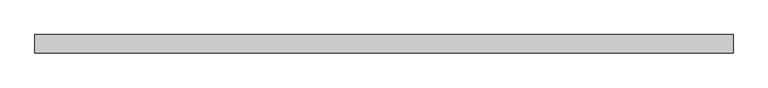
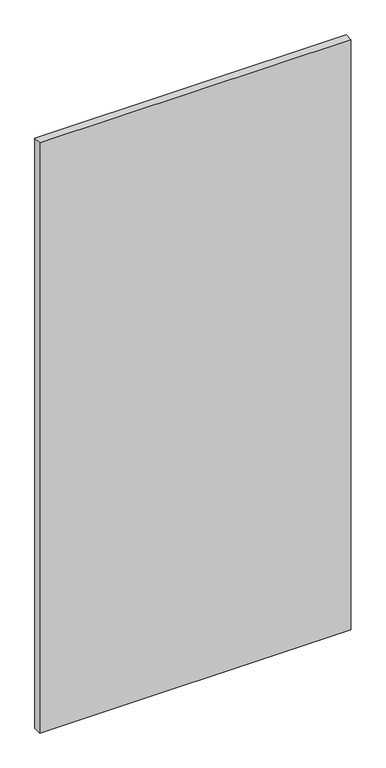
"""IFC4 building model written with IfcOpenShell, lengths in millimetres: plate geometry, Vitré."""

import ifcopenshell
import ifcopenshell.guid

model = None  # the IFC model being written
_history = None  # IfcOwnerHistory: only IFC2X3 demands one
_inside = {}  # id of a spatial element -> (the spatial element, [elements in it])
_under = {}  # id of a project, library or spatial element -> (it, [spatial elements below it])
_declared = {}  # id of a project -> (the project, [libraries it declares])
_typed = {}  # id of a type object -> (the type object, [elements of that type])
_made_of = {}  # id of a material, layer set ... -> (it, [elements and type objects made of it])


def new_model(schema):
    """Start an empty IFC model of exactly this schema.

    Asked for "IFC4X3", IfcOpenShell would pick the latest addendum, in which some entities
    have other attributes; the version numbers below select the first issue.
    IFC2X3 requires an IfcOwnerHistory on every rooted entity: one is made here for all.
    """
    global model, _history
    if schema == "IFC4X3":
        model = ifcopenshell.file(schema_version=(4, 3, 0, 0))
    else:
        model = ifcopenshell.file(schema=schema)
    _inside.clear()
    _under.clear()
    _declared.clear()
    _typed.clear()
    _made_of.clear()
    _history = None
    if model.schema == "IFC2X3":
        org = make("IfcOrganization", Name="unknown")
        user = make(
            "IfcPersonAndOrganization",
            ThePerson=make("IfcPerson", FamilyName="unknown"),
            TheOrganization=org,
        )
        app = make(
            "IfcApplication",
            ApplicationDeveloper=org,
            Version="unknown",
            ApplicationFullName="unknown",
            ApplicationIdentifier="unknown",
        )
        _history = make(
            "IfcOwnerHistory",
            OwningUser=user,
            OwningApplication=app,
            ChangeAction="ADDED",
            CreationDate=0,
        )
    return model


def make(cls, **values):
    """One entity of the class cls with the attributes given. An attribute that is None is left unset."""
    return model.create_entity(
        cls, **{name: value for name, value in values.items() if value is not None}
    )


def rooted(cls, **values):
    """An entity with a GlobalId (a new one), such as an element, a storey or a relation."""
    return make(cls, GlobalId=ifcopenshell.guid.new(), OwnerHistory=_history, **values)


def si_unit(unit_type, name, prefix=None):
    """IfcSIUnit, for example si_unit("LENGTHUNIT", "METRE", prefix="MILLI")."""
    return make("IfcSIUnit", UnitType=unit_type, Prefix=prefix, Name=name)


def assignment(units):
    """IfcUnitAssignment: the units of a project."""
    return None if units is None else make("IfcUnitAssignment", Units=units)


def point(xyz):
    """IfcCartesianPoint."""
    return None if xyz is None else make("IfcCartesianPoint", Coordinates=xyz)


def direction(xyz):
    """IfcDirection."""
    return None if xyz is None else make("IfcDirection", DirectionRatios=xyz)


def frame(location, z_axis=None, x_axis=None):
    """IfcAxis2Placement3D, a coordinate frame: its origin and axes. An axis left out is left unset."""
    return make(
        "IfcAxis2Placement3D",
        Location=point(location),
        Axis=direction(z_axis),
        RefDirection=direction(x_axis),
    )


def origin():
    """The frame at (0, 0, 0) with its axes left unset."""
    return frame((0.0, 0.0, 0.0))


def origin_with_axes():
    """The frame at (0, 0, 0) with the z axis (0, 0, 1) and the x axis (1, 0, 0) written out."""
    return frame((0.0, 0.0, 0.0), z_axis=(0.0, 0.0, 1.0), x_axis=(1.0, 0.0, 0.0))


def place(relative_to, where):
    """IfcLocalPlacement: puts the frame where relative to a parent placement (None: the world)."""
    return make(
        "IfcLocalPlacement", PlacementRelTo=relative_to, RelativePlacement=where
    )


def context(
    kind, dimensions, precision=None, world=None, true_north=None, identifier=None
):
    """IfcGeometricRepresentationContext, for example the 3D "Model" context."""
    return make(
        "IfcGeometricRepresentationContext",
        ContextIdentifier=identifier,
        ContextType=kind,
        CoordinateSpaceDimension=dimensions,
        Precision=precision,
        WorldCoordinateSystem=world,
        TrueNorth=true_north,
    )


def project(units=None, contexts=None):
    """IfcProject with its units and contexts."""
    return rooted(
        "IfcProject",
        Name="project",
        RepresentationContexts=contexts,
        UnitsInContext=assignment(units),
    )


def spatial(cls, under=None, at=None, **own):
    """A site, building, storey or space (cls), placed at a placement, below another one or the project."""
    s = rooted(cls, ObjectPlacement=at, **own)
    if under is not None:
        _under.setdefault(under.id(), (under, []))[1].append(s)
    return s


def polyline(points):
    """IfcPolyline through the points."""
    return make("IfcPolyline", Points=[point(p) for p in points])


def outline(outer, holes=None, kind="AREA"):
    """IfcArbitraryClosedProfileDef: a profile drawn as a closed curve; with holes, ...WithVoids."""
    if holes is None:
        return make("IfcArbitraryClosedProfileDef", ProfileType=kind, OuterCurve=outer)
    return make(
        "IfcArbitraryProfileDefWithVoids",
        ProfileType=kind,
        OuterCurve=outer,
        InnerCurves=holes,
    )


def extrude(swept, where, along, depth):
    """IfcExtrudedAreaSolid: the profile swept, set in the frame where, extruded along a direction by depth."""
    return make(
        "IfcExtrudedAreaSolid",
        SweptArea=swept,
        Position=where,
        ExtrudedDirection=direction(along),
        Depth=depth,
    )


def shape(context_of_items, identifier, shape_type, items):
    """IfcShapeRepresentation: the items that make up one representation, for example the "Body"."""
    return make(
        "IfcShapeRepresentation",
        ContextOfItems=context_of_items,
        RepresentationIdentifier=identifier,
        RepresentationType=shape_type,
        Items=items,
    )


def source(mapping_origin, context_of_items, identifier, shape_type, items):
    """IfcRepresentationMap: a shape defined once, which mapped items show again and again."""
    return make(
        "IfcRepresentationMap",
        MappingOrigin=mapping_origin,
        MappedRepresentation=shape(context_of_items, identifier, shape_type, items),
    )


def transform(
    local_origin,
    x_axis=None,
    y_axis=None,
    z_axis=None,
    scale=None,
    scale2=None,
    scale3=None,
    uniform=True,
):
    """IfcCartesianTransformationOperator3D, or its non-uniform kind. x_axis, y_axis, z_axis: its Axis1, 2, 3."""
    if uniform:
        return make(
            "IfcCartesianTransformationOperator3D",
            Axis1=direction(x_axis),
            Axis2=direction(y_axis),
            LocalOrigin=point(local_origin),
            Scale=scale,
            Axis3=direction(z_axis),
        )
    return make(
        "IfcCartesianTransformationOperator3DnonUniform",
        Axis1=direction(x_axis),
        Axis2=direction(y_axis),
        LocalOrigin=point(local_origin),
        Scale=scale,
        Axis3=direction(z_axis),
        Scale2=scale2,
        Scale3=scale3,
    )


def mapped(mapping_source, mapping_target):
    """IfcMappedItem: shows the shape of a source again, moved by a transform."""
    return make(
        "IfcMappedItem", MappingSource=mapping_source, MappingTarget=mapping_target
    )


def made_of(thing, what):
    """Note that an element or type object is made of a material, layer set ...; save() writes the relation."""
    if what is not None:
        _made_of.setdefault(what.id(), (what, []))[1].append(thing)
    return thing


def element(
    cls,
    number,
    at=None,
    inside=None,
    cuts=None,
    type_object=None,
    material=None,
    context=None,
    identifier="Body",
    shape_type=None,
    held_by="IfcProductDefinitionShape",
    body=None,
    shapes=None,
    **own,
):
    """One element of the class cls, such as IfcWall. Its Tag is "e" and its number.

    at: its placement. inside: the storey or other place that contains it. cuts: it is an
    opening in that element (IfcRelVoidsElement). A single representation is given by context,
    identifier, shape_type and body (its items); several are given by shapes. held_by: the class
    of the entity that holds the representations. save() writes the other relations.
    """
    e = rooted(cls, Tag="e%d" % number, ObjectPlacement=at, **own)
    if body is not None:
        shapes = [shape(context, identifier, shape_type, body)]
    if shapes is not None:
        e.Representation = make(held_by, Representations=shapes)
    if inside is not None:
        _inside.setdefault(inside.id(), (inside, []))[1].append(e)
    if cuts is not None:
        rooted(
            "IfcRelVoidsElement", RelatingBuildingElement=cuts, RelatedOpeningElement=e
        )
    if type_object is not None:
        _typed.setdefault(type_object.id(), (type_object, []))[1].append(e)
    return made_of(e, material)


def aggregate(whole, parts):
    """IfcRelAggregates: a whole, such as a stair, and the parts it consists of."""
    return rooted("IfcRelAggregates", RelatingObject=whole, RelatedObjects=parts)


def save(model, path):
    """Write the relations noted so far, then the file.

    IfcRelAggregates (storeys below a building ...), IfcRelContainedInSpatialStructure (elements
    in a storey), IfcRelDefinesByType, IfcRelAssociatesMaterial and IfcRelDeclares: one each for
    every whole, place, type object, material and project.
    """
    for whole, parts in _under.values():
        aggregate(whole, parts)
    for where, things in _inside.values():
        rooted(
            "IfcRelContainedInSpatialStructure",
            RelatedElements=things,
            RelatingStructure=where,
        )
    for kind, things in _typed.values():
        rooted("IfcRelDefinesByType", RelatedObjects=things, RelatingType=kind)
    for what, things in _made_of.values():
        rooted("IfcRelAssociatesMaterial", RelatedObjects=things, RelatingMaterial=what)
    for by, libraries in _declared.values():
        rooted("IfcRelDeclares", RelatingContext=by, RelatedDefinitions=libraries)
    model.write(path)


def plate_20dd7620(model_context):
    return source(origin(), model_context, "Body", "SweptSolid", [
        extrude(outline(polyline([(-758.8125, -20.0), (-758.8125, 20.0), (758.8125, 20.0), (758.8125, -20.0), (-758.8125, -20.0)])), origin_with_axes(), (0.0, 0.0, 1.0), 3042.625),
    ])


if __name__ == "__main__":
    model = new_model("IFC4")
    model_context = context("Model", 3, world=origin())
    ifc_project = project(units=[si_unit("LENGTHUNIT", "METRE", prefix="MILLI")], contexts=[model_context])
    site = spatial("IfcSite", under=ifc_project)
    building = spatial("IfcBuilding", under=site)
    placement = place(None, origin())
    plate_shape = plate_20dd7620(model_context)
    element("IfcPlate", 1, ObjectType="Vitré", at=placement, inside=building, context=model_context, shape_type="MappedRepresentation", body=[
        mapped(plate_shape, transform((0.0, 0.0, 0.0), x_axis=(1.0, 0.0, 0.0), y_axis=(0.0, 1.0, 0.0), z_axis=(0.0, 0.0, 1.0))),
    ])
    save(model, "model.ifc")
